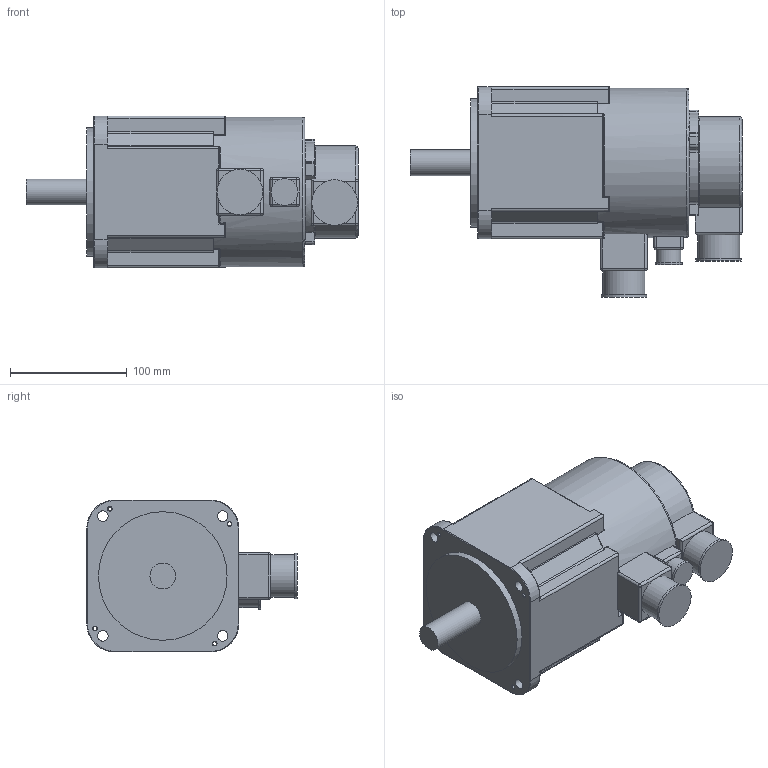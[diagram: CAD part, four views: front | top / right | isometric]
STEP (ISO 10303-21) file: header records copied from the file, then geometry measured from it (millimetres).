
FILE_DESCRIPTION(/* description */ (''),/* implementation_level */ '2;1');
FILE_NAME(/* name */ '130GSL11515-FZ.stp',/* time_stamp */ '2019-11-22T13:54:10+08:00',/* author */ (''),/* organization */ (''),/* preprocessor_version */ 'ST-DEVELOPER v16',/* originating_system */ 'SIEMENS PLM Software NX 10.0',/* authorisation */ '');
FILE_SCHEMA (('CONFIG_CONTROL_DESIGN'));
Length unit declared in the file: millimetre
Products named in the file (1): 130GSL11515-FZ
Bounding box: 284 x 180 x 130 mm (x, y, z)
Volume: 2989315.9 mm3; surface area: 148525.7 mm2
Topology: 1 solids, 1 shells, 329 faces, 808 edges, 459 vertices
Faces by surface type: cylinder 149, plane 90, torus 38, bspline 27, sphere 17, cone 8
Full cylindrical faces by diameter (mm): 3.3 x4, 9 x4, 21 x1, 22 x1, 23 x1, 36 x2, 39 x2, 110 x1, 128 x1
Entity records: 11268 total; most frequent: CARTESIAN_POINT 3845, DIRECTION 1562, ORIENTED_EDGE 1496, EDGE_CURVE 748, AXIS2_PLACEMENT_3D 619, VERTEX_POINT 454, EDGE_LOOP 378, ADVANCED_FACE 329
